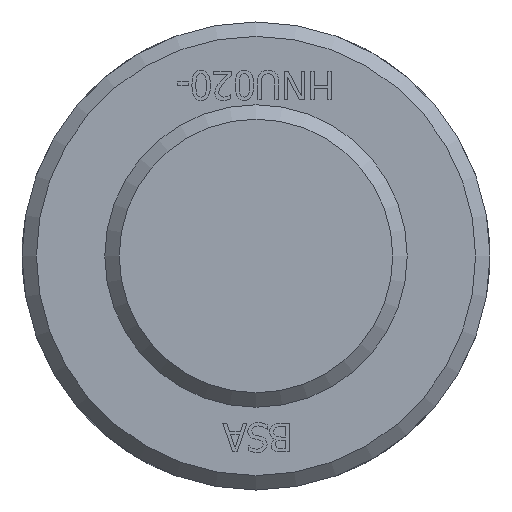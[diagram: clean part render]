
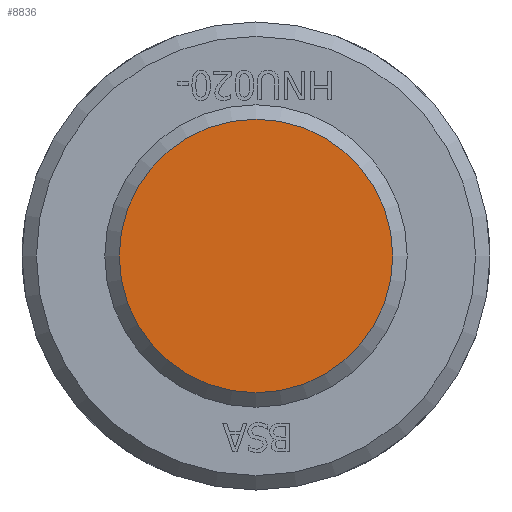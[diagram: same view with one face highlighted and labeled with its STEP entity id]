
A CAD part, front view. The second image highlights one B-rep face of the part: STEP entity #8836.
In plain terms, the highlighted planar face has unit normal (0, -1, 0) as drawn and (0, 1, 0) by its records, which use the part's own axes.
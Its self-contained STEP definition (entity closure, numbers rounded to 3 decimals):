
#61=CIRCLE('',#9321,19.);
#1167=FACE_OUTER_BOUND('',#1695,.T.);
#1695=EDGE_LOOP('',(#6670));
#3857=VERTEX_POINT('',#12876);
#4903=EDGE_CURVE('',#3857,#3857,#61,.T.);
#6670=ORIENTED_EDGE('',*,*,#4903,.F.);
#8535=PLANE('',#9324);
#8836=ADVANCED_FACE('',(#1167),#8535,.T.);
#9321=AXIS2_PLACEMENT_3D('',#12877,#9902,#9903);
#9324=AXIS2_PLACEMENT_3D('',#12881,#9908,#9909);
#9902=DIRECTION('center_axis',(0.,-1.,0.));
#9903=DIRECTION('ref_axis',(1.,0.,0.));
#9908=DIRECTION('center_axis',(0.,1.,0.));
#9909=DIRECTION('ref_axis',(0.,0.,1.));
#12876=CARTESIAN_POINT('',(-19.,250.,0.));
#12877=CARTESIAN_POINT('Origin',(0.,250.,0.));
#12881=CARTESIAN_POINT('Origin',(0.,250.,0.));
